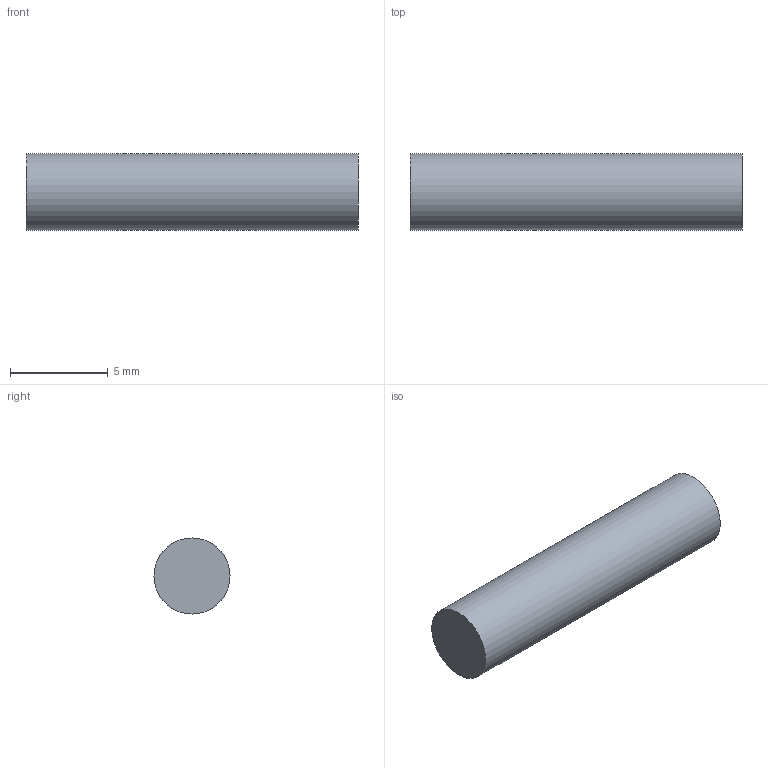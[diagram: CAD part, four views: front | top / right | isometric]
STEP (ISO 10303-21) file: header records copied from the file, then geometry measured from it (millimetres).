
FILE_DESCRIPTION(('Open CASCADE Model'),'2;1');
FILE_NAME('Open CASCADE Shape Model','2026-11-25T12:49:16',('Author'),( 'Open CASCADE'),'Open CASCADE STEP processor 8.0','Open CASCADE 8.0' ,'Unknown');
FILE_SCHEMA(('AP242_MANAGED_MODEL_BASED_3D_ENGINEERING_MIM_LF {1 0 10303 442 1 1 4 }' ));
Length unit declared in the file: millimetre
Products named in the file (1): Hinge pin
Bounding box: 17 x 3.9 x 3.9 mm (x, y, z)
Volume: 203.1 mm3; surface area: 232.2 mm2
Topology: 1 solids, 1 shells, 3 faces, 3 edges, 2 vertices
Faces by surface type: plane 2, cylinder 1
Full cylindrical faces by diameter (mm): 3.9 x1
Entity records: 117 total; most frequent: DIRECTION 19, CARTESIAN_POINT 15, AXIS2_PLACEMENT_3D 6, ORIENTED_EDGE 6, PCURVE 6, DEFINITIONAL_REPRESENTATION 6, LINE 5, VECTOR 5
